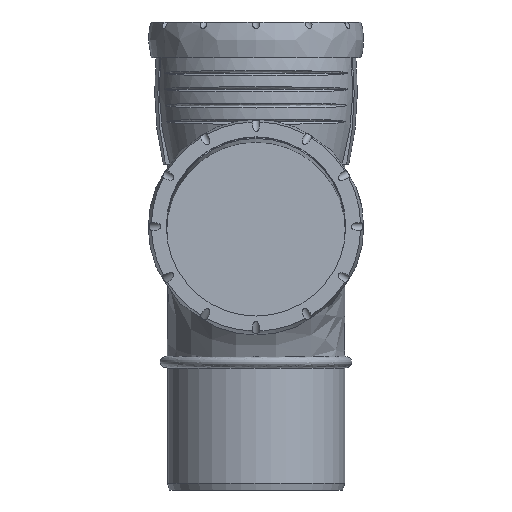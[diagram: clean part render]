
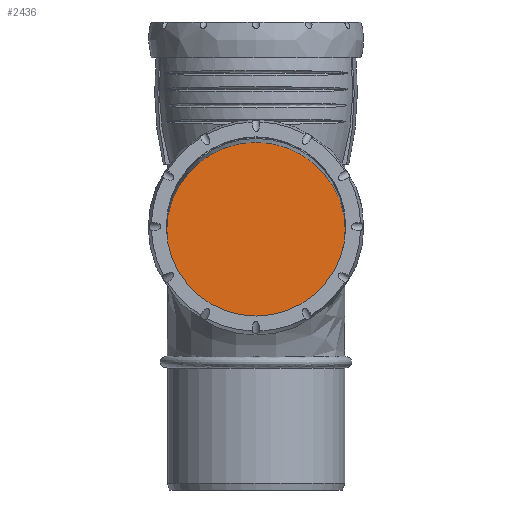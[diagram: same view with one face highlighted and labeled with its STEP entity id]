
A CAD part, left-side view. The second image highlights one B-rep face of the part: STEP entity #2436.
In plain terms, the highlighted planar face has unit normal (-0.999, 0, 0.044).
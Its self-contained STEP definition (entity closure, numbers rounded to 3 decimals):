
#334=PLANE('',#2652);
#509=FACE_OUTER_BOUND('',#700,.T.);
#700=EDGE_LOOP('',(#1910));
#837=CIRCLE('',#2653,45.45);
#1038=VERTEX_POINT('',#8916);
#1345=EDGE_CURVE('',#1038,#1038,#837,.T.);
#1910=ORIENTED_EDGE('',*,*,#1345,.T.);
#2436=ADVANCED_FACE('',(#509),#334,.T.);
#2652=AXIS2_PLACEMENT_3D('',#8915,#3039,#3040);
#2653=AXIS2_PLACEMENT_3D('',#8917,#3041,#3042);
#3039=DIRECTION('center_axis',(-0.999,0.,
0.044));
#3040=DIRECTION('ref_axis',(0.,1.,0.));
#3041=DIRECTION('center_axis',(-0.999,0.,
0.044));
#3042=DIRECTION('ref_axis',(0.,1.,0.));
#8915=CARTESIAN_POINT('Origin',(-72.174,0.,
131.451));
#8916=CARTESIAN_POINT('',(-74.157,0.,86.044));
#8917=CARTESIAN_POINT('Origin',(-72.174,0.,
131.451));
